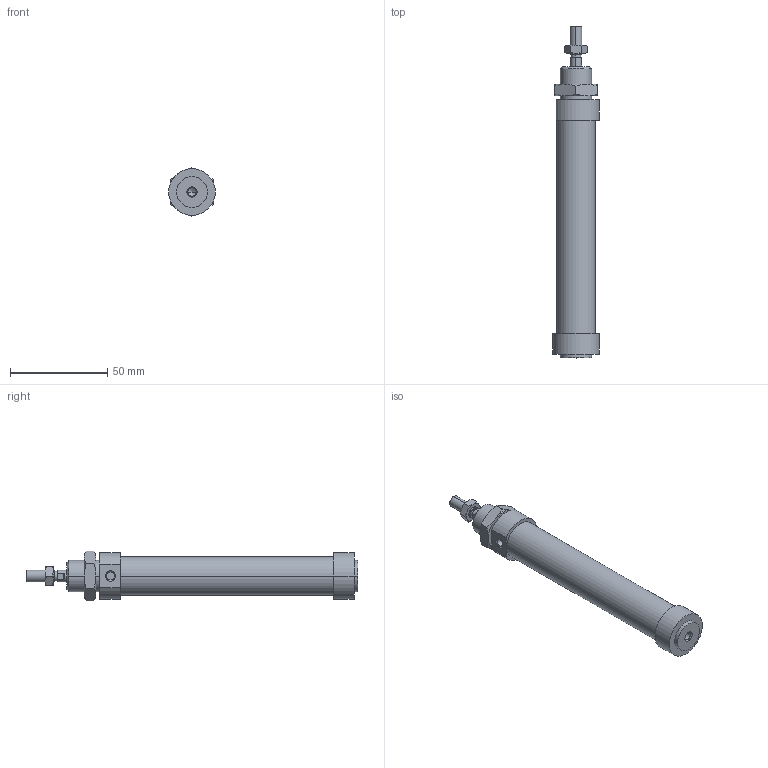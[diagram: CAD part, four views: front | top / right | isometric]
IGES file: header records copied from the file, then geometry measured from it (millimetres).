
Global section: file name: No Iges File Name specified; native system: AutoDesk Inventor R6.0; preprocessor: AutoDesk Inventor Iges Exporter R6.0; author: No Author specified; organization: No Organization specified; date: 20030402.184150; units: millimetre
Bounding box: 24 x 171 x 25.4 mm (x, y, z)
Volume: 49857.2 mm3; surface area: 16501.6 mm2
Topology: 4 solids, 4 shells, 108 faces, 229 edges, 135 vertices
Faces by surface type: cone 34, plane 33, bspline 21, cylinder 16, revolution 4
